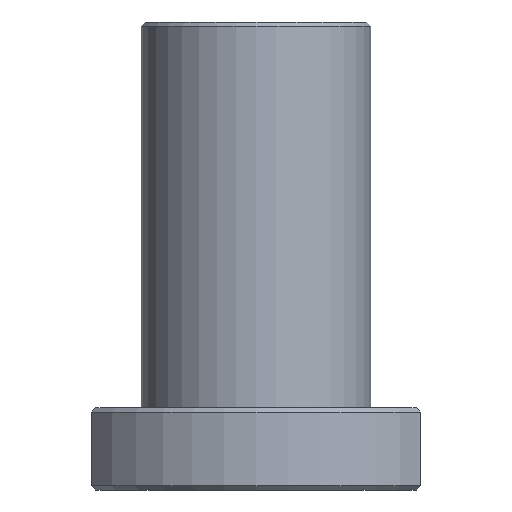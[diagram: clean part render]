
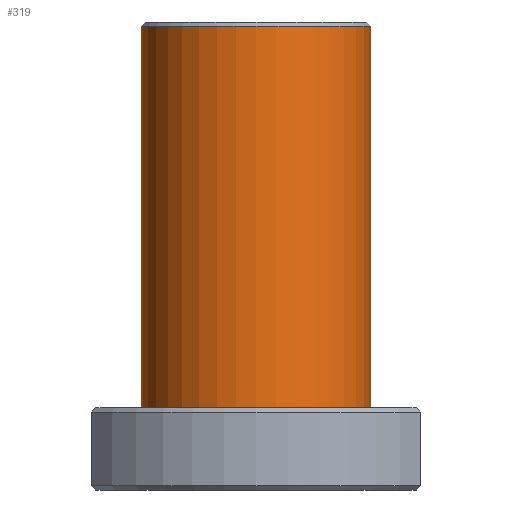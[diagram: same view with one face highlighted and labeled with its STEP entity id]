
A CAD part, front view. The second image highlights one B-rep face of the part: STEP entity #319.
In plain terms, the highlighted cylindrical face has radius 14 mm (diameter 28 mm), a full revolution.
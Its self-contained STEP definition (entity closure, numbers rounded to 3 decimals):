
#319=ADVANCED_FACE('',(#701,#703),#705,.T.);
#701=FACE_OUTER_BOUND('',#702,.T.);
#702=EDGE_LOOP('',(#920));
#703=FACE_OUTER_BOUND('',#704,.T.);
#704=EDGE_LOOP('',(#921));
#705=CYLINDRICAL_SURFACE('',#706,14.);
#706=AXIS2_PLACEMENT_3D('',#707,#708,#709);
#707=CARTESIAN_POINT('',(0.,0.,10.));
#708=DIRECTION('',(0.,0.,1.));
#709=DIRECTION('',(1.,0.,0.));
#920=ORIENTED_EDGE('',*,*,#1005,.F.);
#921=ORIENTED_EDGE('',*,*,#990,.T.);
#990=EDGE_CURVE('',#1087,#1087,#1088,.T.);
#1005=EDGE_CURVE('',#1116,#1116,#1117,.T.);
#1087=VERTEX_POINT('',#1457);
#1088=CIRCLE('',#1458,14.);
#1116=VERTEX_POINT('',#1532);
#1117=CIRCLE('',#1533,14.);
#1457=CARTESIAN_POINT('',(14.,0.,10.));
#1458=AXIS2_PLACEMENT_3D('',#1459,#1460,#1461);
#1459=CARTESIAN_POINT('',(0.,0.,10.));
#1460=DIRECTION('',(0.,0.,1.));
#1461=DIRECTION('',(1.,0.,0.));
#1532=CARTESIAN_POINT('',(14.,0.,56.5));
#1533=AXIS2_PLACEMENT_3D('',#1534,#1535,#1536);
#1534=CARTESIAN_POINT('',(0.,0.,56.5));
#1535=DIRECTION('',(0.,0.,1.));
#1536=DIRECTION('',(1.,0.,0.));
